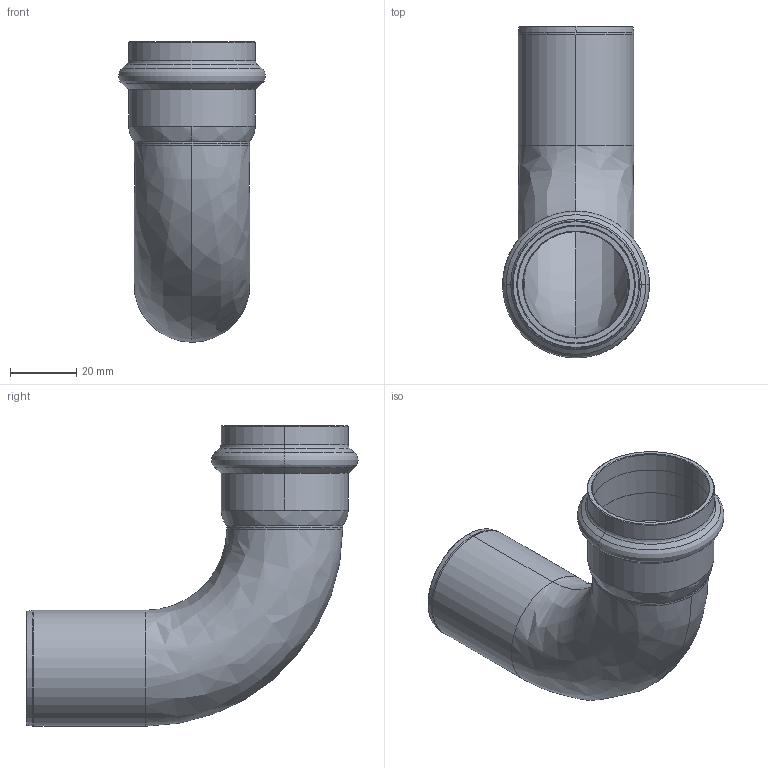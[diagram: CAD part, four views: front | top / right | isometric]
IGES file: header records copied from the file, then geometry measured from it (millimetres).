
Start section: Elysium IGES Interface
Global section: file name: C:\Users\Wallenburg\Desktop\3d modellen sudo\S-Pr VP\SP6001V\6001VW35.igs; native system: CoCreate Modeling 17.00A  17-Jun-2010; preprocessor: CoCreate IGES_3D V2.2; author: Unknown; organization: Unknown; date: 20130115.155855; units: millimetre
Bounding box: 44.3 x 100.23 x 90.69 mm (x, y, z)
Volume: 23877.8 mm3; surface area: 29734.9 mm2
Topology: 1 solids, 1 shells, 60 faces, 142 edges, 84 vertices
Faces by surface type: bspline 60
